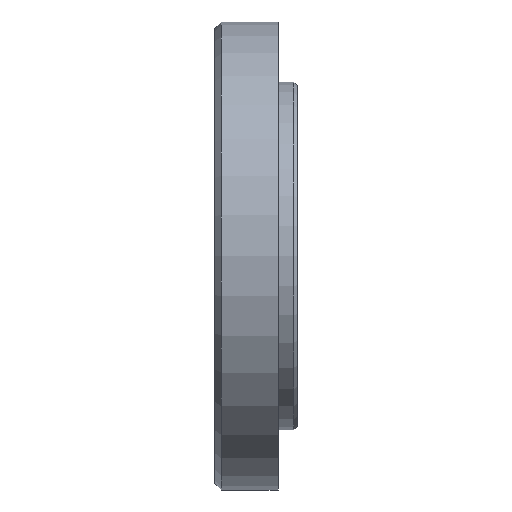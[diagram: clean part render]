
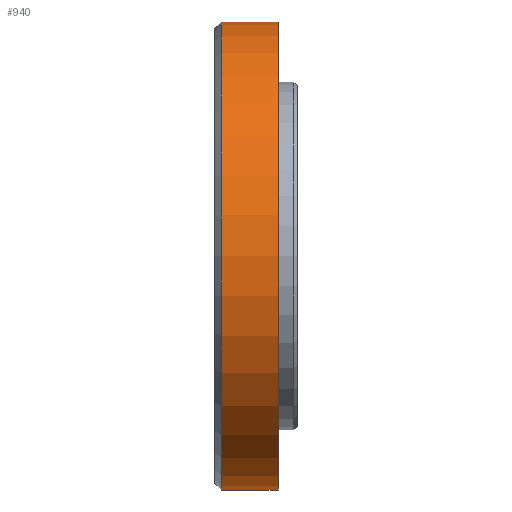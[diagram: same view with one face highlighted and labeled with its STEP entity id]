
A CAD part, top view. The second image highlights one B-rep face of the part: STEP entity #940.
In plain terms, the highlighted cylindrical face has radius 37 mm (diameter 74 mm), a partial arc.
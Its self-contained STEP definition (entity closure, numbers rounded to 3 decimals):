
#38 = DIRECTION ( 'NONE',  ( 1., 0., 0. ) ) ;
#105 = VERTEX_POINT ( 'NONE', #604 ) ;
#117 = AXIS2_PLACEMENT_3D ( 'NONE', #1052, #128, #1029 ) ;
#128 = DIRECTION ( 'NONE',  ( 1., 0., 0. ) ) ;
#140 = CARTESIAN_POINT ( 'NONE',  ( 1., 37., 0. ) ) ;
#142 = CYLINDRICAL_SURFACE ( 'NONE', #117, 37. ) ;
#151 = EDGE_CURVE ( 'NONE', #1298, #212, #626, .T. ) ;
#160 = ORIENTED_EDGE ( 'NONE', *, *, #151, .F. ) ;
#190 = DIRECTION ( 'NONE',  ( 0., 1., 0. ) ) ;
#206 = CARTESIAN_POINT ( 'NONE',  ( 10., 0., 0. ) ) ;
#212 = VERTEX_POINT ( 'NONE', #1317 ) ;
#214 = AXIS2_PLACEMENT_3D ( 'NONE', #1293, #1067, #504 ) ;
#372 = LINE ( 'NONE', #945, #854 ) ;
#394 = ORIENTED_EDGE ( 'NONE', *, *, #1457, .T. ) ;
#425 = ORIENTED_EDGE ( 'NONE', *, *, #1147, .T. ) ;
#468 = EDGE_LOOP ( 'NONE', ( #425, #394, #544, #160 ) ) ;
#484 = DIRECTION ( 'NONE',  ( 1., 0., 0. ) ) ;
#504 = DIRECTION ( 'NONE',  ( 0., -1., 0. ) ) ;
#544 = ORIENTED_EDGE ( 'NONE', *, *, #1282, .F. ) ;
#595 = VECTOR ( 'NONE', #38, 1000. ) ;
#604 = CARTESIAN_POINT ( 'NONE',  ( 10., -37., 0. ) ) ;
#626 = LINE ( 'NONE', #1299, #595 ) ;
#671 = DIRECTION ( 'NONE',  ( 1., 0., 0. ) ) ;
#821 = FACE_OUTER_BOUND ( 'NONE', #468, .T. ) ;
#854 = VECTOR ( 'NONE', #484, 1000. ) ;
#940 = ADVANCED_FACE ( 'NONE', ( #821 ), #142, .T. ) ;
#945 = CARTESIAN_POINT ( 'NONE',  ( 10., -37., 0. ) ) ;
#954 = AXIS2_PLACEMENT_3D ( 'NONE', #206, #671, #190 ) ;
#1028 = VERTEX_POINT ( 'NONE', #1423 ) ;
#1029 = DIRECTION ( 'NONE',  ( 0., 1., 0. ) ) ;
#1052 = CARTESIAN_POINT ( 'NONE',  ( 10., 0., 0. ) ) ;
#1067 = DIRECTION ( 'NONE',  ( 1., 0., 0. ) ) ;
#1147 = EDGE_CURVE ( 'NONE', #1298, #1028, #1218, .T. ) ;
#1218 = CIRCLE ( 'NONE', #214, 37. ) ;
#1282 = EDGE_CURVE ( 'NONE', #212, #105, #1411, .T. ) ;
#1293 = CARTESIAN_POINT ( 'NONE',  ( 1., 0., 0. ) ) ;
#1298 = VERTEX_POINT ( 'NONE', #140 ) ;
#1299 = CARTESIAN_POINT ( 'NONE',  ( 10., 37., 0. ) ) ;
#1317 = CARTESIAN_POINT ( 'NONE',  ( 10., 37., 0. ) ) ;
#1411 = CIRCLE ( 'NONE', #954, 37. ) ;
#1423 = CARTESIAN_POINT ( 'NONE',  ( 1., -37., 0. ) ) ;
#1457 = EDGE_CURVE ( 'NONE', #1028, #105, #372, .T. ) ;
